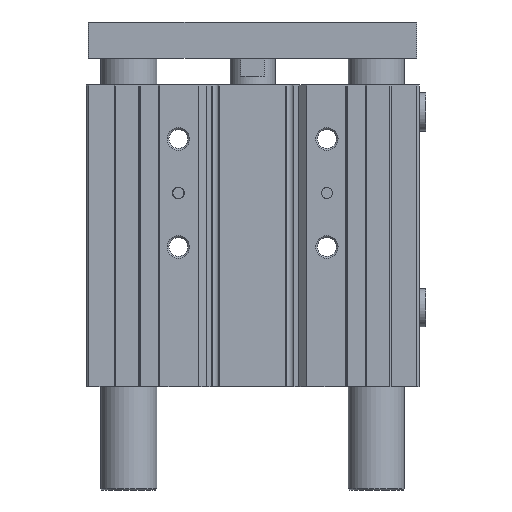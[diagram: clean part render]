
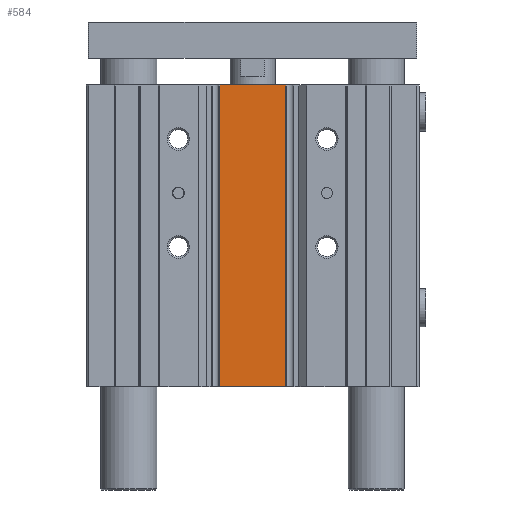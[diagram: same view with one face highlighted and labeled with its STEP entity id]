
A CAD part, left-side view. The second image highlights one B-rep face of the part: STEP entity #584.
In plain terms, the highlighted planar face has unit normal (-1, 0, 0).
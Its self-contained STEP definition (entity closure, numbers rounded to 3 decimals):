
#584 = ADVANCED_FACE( '', ( #1428 ), #1429, .T. );
#1428 = FACE_OUTER_BOUND( '', #2625, .T. );
#1429 = PLANE( '', #2626 );
#2625 = EDGE_LOOP( '', ( #4107, #4108, #4109, #4110 ) );
#2626 = AXIS2_PLACEMENT_3D( '', #4111, #4112, #4113 );
#4107 = ORIENTED_EDGE( '', *, *, #6809, .F. );
#4108 = ORIENTED_EDGE( '', *, *, #6810, .F. );
#4109 = ORIENTED_EDGE( '', *, *, #6811, .T. );
#4110 = ORIENTED_EDGE( '', *, *, #6812, .T. );
#4111 = CARTESIAN_POINT( '', ( -28.5, 14.7, -134. ) );
#4112 = DIRECTION( '', ( -1., 0., 0. ) );
#4113 = DIRECTION( '', ( 0., -1., 0. ) );
#6809 = EDGE_CURVE( '', #8140, #8141, #8142, .T. );
#6810 = EDGE_CURVE( '', #8143, #8140, #8144, .T. );
#6811 = EDGE_CURVE( '', #8143, #8145, #8146, .T. );
#6812 = EDGE_CURVE( '', #8145, #8141, #8147, .T. );
#8140 = VERTEX_POINT( '', #10020 );
#8141 = VERTEX_POINT( '', #10021 );
#8142 = LINE( '', #10022, #10023 );
#8143 = VERTEX_POINT( '', #10024 );
#8144 = LINE( '', #10025, #10026 );
#8145 = VERTEX_POINT( '', #10027 );
#8146 = LINE( '', #10028, #10029 );
#8147 = LINE( '', #10030, #10031 );
#10020 = CARTESIAN_POINT( '', ( -28.5, 14.7, 0. ) );
#10021 = CARTESIAN_POINT( '', ( -28.5, -14.7, 0. ) );
#10022 = CARTESIAN_POINT( '', ( -28.5, 14.7, 0. ) );
#10023 = VECTOR( '', #12031, 1000. );
#10024 = CARTESIAN_POINT( '', ( -28.5, 14.7, -134. ) );
#10025 = CARTESIAN_POINT( '', ( -28.5, 14.7, -134. ) );
#10026 = VECTOR( '', #12032, 1000. );
#10027 = CARTESIAN_POINT( '', ( -28.5, -14.7, -134. ) );
#10028 = CARTESIAN_POINT( '', ( -28.5, 14.7, -134. ) );
#10029 = VECTOR( '', #12033, 1000. );
#10030 = CARTESIAN_POINT( '', ( -28.5, -14.7, -134. ) );
#10031 = VECTOR( '', #12034, 1000. );
#12031 = DIRECTION( '', ( 0., -1., 0. ) );
#12032 = DIRECTION( '', ( 0., 0., 1. ) );
#12033 = DIRECTION( '', ( 0., -1., 0. ) );
#12034 = DIRECTION( '', ( 0., 0., 1. ) );
